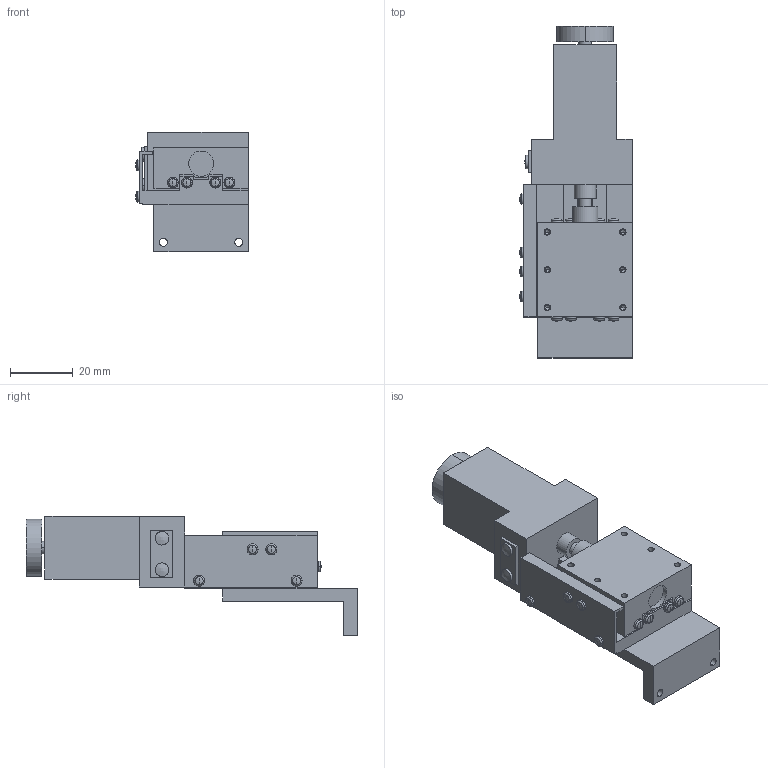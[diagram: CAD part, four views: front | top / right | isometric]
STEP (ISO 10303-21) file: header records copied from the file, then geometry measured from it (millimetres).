
FILE_DESCRIPTION (( 'STEP AP203' ), '1' );
FILE_NAME ('ALZ-301-HM.STEP', '2008-04-10T09:52:57', ( '' ), ( '' ), 'SwSTEP 2.0', 'SolidWorks 2007', '' );
FILE_SCHEMA (( 'CONFIG_CONTROL_DESIGN' ));
Length unit declared in the file: millimetre
Products named in the file (3): ALZ-301-HM-1; ALZ-301-HM; ALZ-301-HM-2
Assembly tree (2 placements, depth 2):
  ALZ-301-HM
    ALZ-301-HM-1
    ALZ-301-HM-2
Bounding box: 35.8 x 105.5 x 38 mm (x, y, z)
Volume: 49492.3 mm3; surface area: 19707.1 mm2
Topology: 2 solids, 6 shells, 262 faces, 612 edges, 392 vertices
Faces by surface type: plane 92, cylinder 84, cone 36, sphere 24, torus 24, bspline 2
Entity records: 8217 total; most frequent: CARTESIAN_POINT 1661, DIRECTION 1434, ORIENTED_EDGE 1200, EDGE_CURVE 600, AXIS2_PLACEMENT_3D 573, VERTEX_POINT 392, EDGE_LOOP 320, CIRCLE 308
